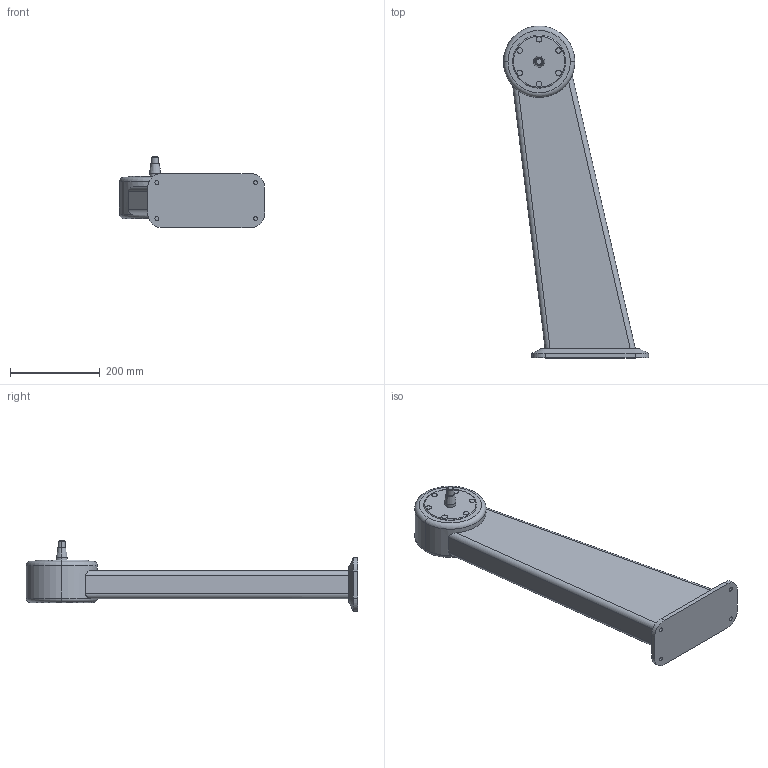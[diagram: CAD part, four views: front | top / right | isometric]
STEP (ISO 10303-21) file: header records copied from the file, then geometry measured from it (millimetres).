
FILE_DESCRIPTION (( 'STEP AP214' ), '1' );
FILE_NAME ('WP700_H660_+10.STEP', '2014-08-14T09:49:09', ( '' ), ( '' ), 'SwSTEP 2.0', 'SolidWorks 2014', '' );
FILE_SCHEMA (( 'AUTOMOTIVE_DESIGN' ));
Length unit declared in the file: millimetre
Products named in the file (1): WP700_H660_+10
Bounding box: 323.27 x 739.5 x 158.3 mm (x, y, z)
Volume: 8412841.1 mm3; surface area: 392269.5 mm2
Topology: 1 solids, 1 shells, 79 faces, 171 edges, 108 vertices
Faces by surface type: cylinder 36, plane 29, cone 8, torus 6
Entity records: 2294 total; most frequent: CARTESIAN_POINT 475, DIRECTION 408, ORIENTED_EDGE 342, EDGE_CURVE 171, AXIS2_PLACEMENT_3D 167, VERTEX_POINT 108, EDGE_LOOP 93, CIRCLE 87
